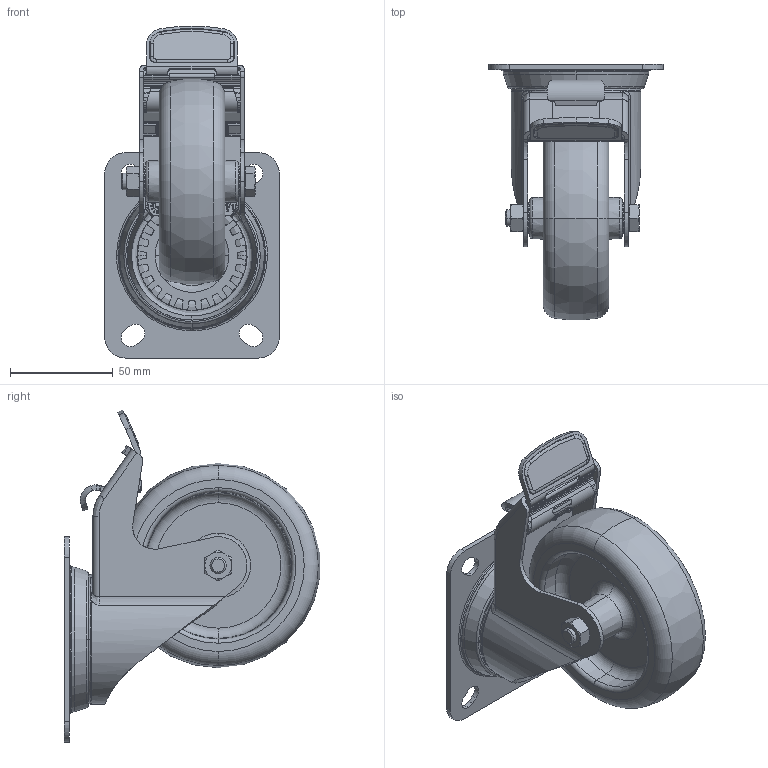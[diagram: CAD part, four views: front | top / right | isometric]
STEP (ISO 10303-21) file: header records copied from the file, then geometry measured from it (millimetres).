
FILE_DESCRIPTION (( 'STEP AP203' ), '1' );
FILE_NAME ('LEX-TPA_102G-FI-ELS_624833-203.step', '2012-12-15T11:43:57', ( '' ), ( '' ), 'SwSTEP 2.0', 'SolidWorks 2011', '' );
FILE_SCHEMA (( 'CONFIG_CONTROL_DESIGN' ));
Length unit declared in the file: millimetre
Products named in the file (5): LEX-TPA_102G-FI-ELS_624833-203; TPA_G15_2_TPA_102_12G-ELS_617852; TPA-G_G15_TPA_102_12G-ELS; AM_L_8x51x2_R; GH-LEX_100-FI_G15
Assembly tree (4 placements, depth 3):
  LEX-TPA_102G-FI-ELS_624833-203
    TPA_G15_2_TPA_102_12G-ELS_617852
      TPA-G_G15_TPA_102_12G-ELS
    GH-LEX_100-FI_G15
    AM_L_8x51x2_R
Bounding box: 85 x 124.49 x 161.75 mm (x, y, z)
Volume: 243246.6 mm3; surface area: 88886.4 mm2
Topology: 3 solids, 5 shells, 2294 faces, 6136 edges, 3977 vertices
Faces by surface type: plane 1074, bspline 813, cylinder 318, cone 67, torus 22
Entity records: 94804 total; most frequent: CARTESIAN_POINT 42176, ORIENTED_EDGE 12236, DIRECTION 8377, EDGE_CURVE 6118, VERTEX_POINT 3973, LINE 3621, VECTOR 3621, EDGE_LOOP 2439
